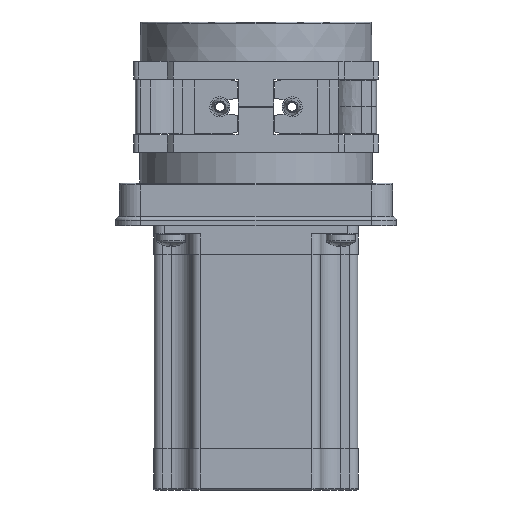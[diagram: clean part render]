
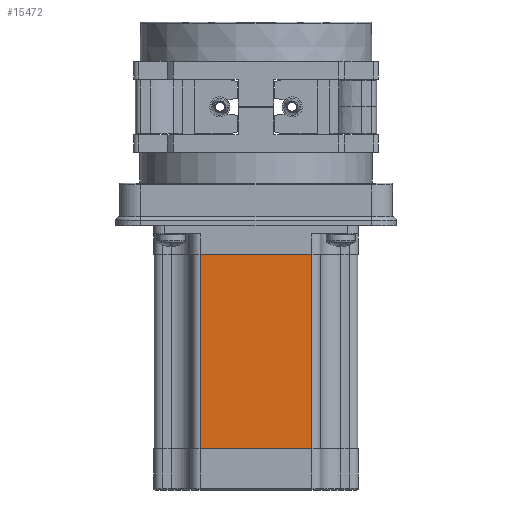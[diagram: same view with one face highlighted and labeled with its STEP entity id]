
A CAD part, front view. The second image highlights one B-rep face of the part: STEP entity #15472.
In plain terms, the highlighted planar face has unit normal (0, -1, 0).
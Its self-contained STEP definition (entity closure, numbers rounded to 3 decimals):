
#1231 = CARTESIAN_POINT ( 'NONE',  ( 15.57, -28.3, 50.01 ) ) ;
#1828 = CARTESIAN_POINT ( 'NONE',  ( -15.57, -28.3, -95.1 ) ) ;
#2247 = VERTEX_POINT ( 'NONE', #25854 ) ;
#4315 = AXIS2_PLACEMENT_3D ( 'NONE', #7322, #26316, #13696 ) ;
#6723 = VECTOR ( 'NONE', #9562, 1000. ) ;
#6802 = DIRECTION ( 'NONE',  ( -1., 0., 0. ) ) ;
#7322 = CARTESIAN_POINT ( 'NONE',  ( 15.57, -28.3, 50.01 ) ) ;
#7743 = EDGE_CURVE ( 'NONE', #2247, #22595, #8045, .T. ) ;
#7962 = ORIENTED_EDGE ( 'NONE', *, *, #25517, .T. ) ;
#8045 = LINE ( 'NONE', #1231, #6723 ) ;
#9562 = DIRECTION ( 'NONE',  ( 0., 0., -1. ) ) ;
#9832 = VERTEX_POINT ( 'NONE', #1828 ) ;
#10974 = CARTESIAN_POINT ( 'NONE',  ( 15.57, -28.3, -95.1 ) ) ;
#11238 = VERTEX_POINT ( 'NONE', #11459 ) ;
#11459 = CARTESIAN_POINT ( 'NONE',  ( -15.57, -28.3, -41.1 ) ) ;
#11583 = PLANE ( 'NONE',  #4315 ) ;
#11725 = EDGE_CURVE ( 'NONE', #22595, #9832, #19360, .T. ) ;
#13084 = CARTESIAN_POINT ( 'NONE',  ( -15.57, -28.3, 50.01 ) ) ;
#13696 = DIRECTION ( 'NONE',  ( 1., 0., 0. ) ) ;
#14716 = VECTOR ( 'NONE', #24054, 1000. ) ;
#15472 = ADVANCED_FACE ( 'NONE', ( #25536 ), #11583, .T. ) ;
#15477 = ORIENTED_EDGE ( 'NONE', *, *, #7743, .F. ) ;
#16168 = VECTOR ( 'NONE', #17284, 1000. ) ;
#17284 = DIRECTION ( 'NONE',  ( 0., 0., -1. ) ) ;
#18702 = VECTOR ( 'NONE', #6802, 1000. ) ;
#18705 = ORIENTED_EDGE ( 'NONE', *, *, #11725, .F. ) ;
#19360 = LINE ( 'NONE', #10974, #18702 ) ;
#19393 = ORIENTED_EDGE ( 'NONE', *, *, #26973, .T. ) ;
#20316 = LINE ( 'NONE', #26092, #14716 ) ;
#20459 = LINE ( 'NONE', #13084, #16168 ) ;
#22595 = VERTEX_POINT ( 'NONE', #25099 ) ;
#24054 = DIRECTION ( 'NONE',  ( -1., 0., 0. ) ) ;
#25099 = CARTESIAN_POINT ( 'NONE',  ( 15.57, -28.3, -95.1 ) ) ;
#25517 = EDGE_CURVE ( 'NONE', #11238, #9832, #20459, .T. ) ;
#25536 = FACE_OUTER_BOUND ( 'NONE', #26190, .T. ) ;
#25854 = CARTESIAN_POINT ( 'NONE',  ( 15.57, -28.3, -41.1 ) ) ;
#26092 = CARTESIAN_POINT ( 'NONE',  ( 15.57, -28.3, -41.1 ) ) ;
#26190 = EDGE_LOOP ( 'NONE', ( #19393, #7962, #18705, #15477 ) ) ;
#26316 = DIRECTION ( 'NONE',  ( 0., -1., 0. ) ) ;
#26973 = EDGE_CURVE ( 'NONE', #2247, #11238, #20316, .T. ) ;
